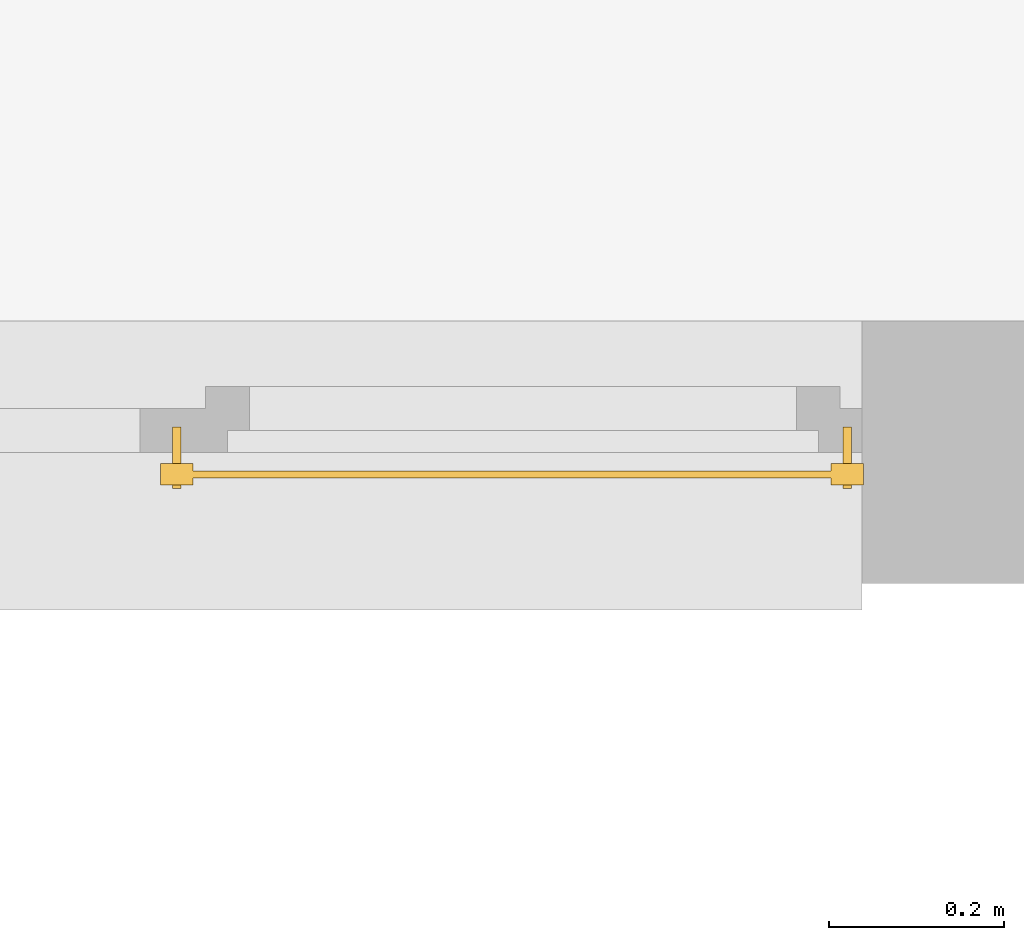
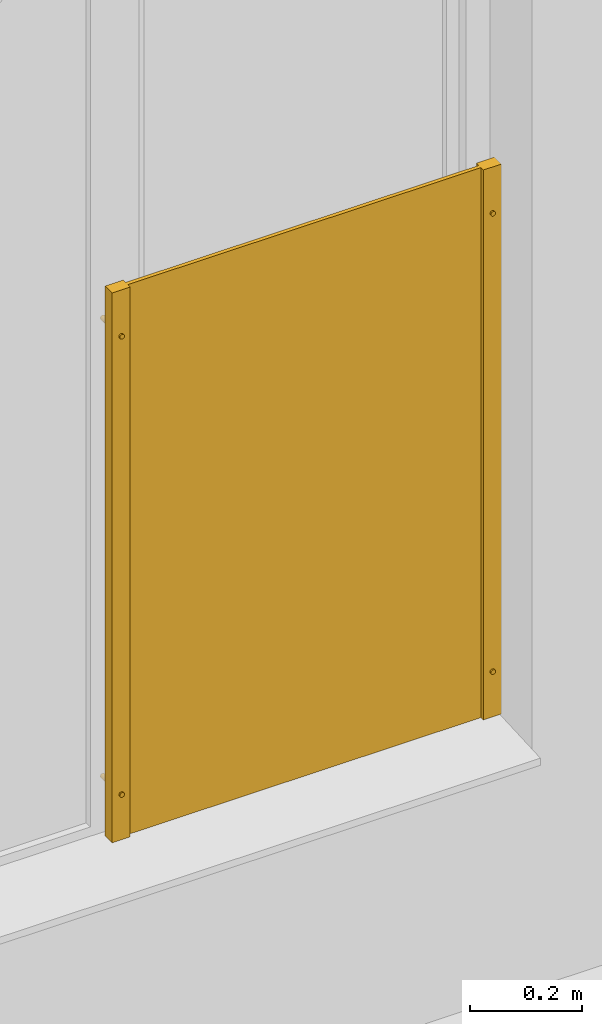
# One storey, part 7 of 8: 1 railing.
"""IFC2X3 building model written with IfcOpenShell, lengths in millimetres."""

from ifc_helpers import new_model, entity, si_unit, converted_unit, derived_unit, money_unit, direction, frame, origin_with_axes, place, context, subcontext, project, spatial, faceted_brep, material, material_list, type_object, element, save


model = new_model("IFC2X3")

# Units and contexts
model_context = context("Model", 3, precision=1e-05, world=origin_with_axes(), true_north=direction((0.0, 1.0)))
body_context = subcontext(model_context, "Body", "Model", "MODEL_VIEW")
ifc_project = project(units=[si_unit("LENGTHUNIT", "METRE", prefix="MILLI"), si_unit("AREAUNIT", "SQUARE_METRE"), si_unit("VOLUMEUNIT", "CUBIC_METRE"), converted_unit("PLANEANGLEUNIT", "DEGREE", entity("IfcPlaneAngleMeasure", 0.0174532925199), si_unit("PLANEANGLEUNIT", "RADIAN"), dimensions=[0, 0, 0, 0, 0, 0, 0]), si_unit("SOLIDANGLEUNIT", "STERADIAN"), money_unit("USD"), converted_unit("TIMEUNIT", "Year", entity("IfcTimeMeasure", 31556926.0), si_unit("TIMEUNIT", "SECOND"), dimensions=[0, 0, 1, 0, 0, 0, 0]), si_unit("MASSUNIT", "GRAM", prefix="KILO"), si_unit("THERMODYNAMICTEMPERATUREUNIT", "DEGREE_CELSIUS"), si_unit("LUMINOUSINTENSITYUNIT", "LUMEN"), si_unit("ENERGYUNIT", "JOULE", prefix="MEGA"), derived_unit("THERMALCONDUCTANCEUNIT", [(si_unit("POWERUNIT", "WATT"), 1), (si_unit("LENGTHUNIT", "METRE"), -1), (si_unit("THERMODYNAMICTEMPERATUREUNIT", "KELVIN"), -1)]), derived_unit("SPECIFICHEATCAPACITYUNIT", [(si_unit("ENERGYUNIT", "JOULE"), 1), (si_unit("MASSUNIT", "GRAM", prefix="KILO"), -1), (si_unit("THERMODYNAMICTEMPERATUREUNIT", "KELVIN"), -1)]), derived_unit("MASSDENSITYUNIT", [(si_unit("MASSUNIT", "GRAM", prefix="KILO"), 1), (si_unit("VOLUMEUNIT", "CUBIC_METRE"), -1)])], contexts=[model_context])

# Site, building, storey
site_placement = place(None, origin_with_axes())
site = spatial("IfcSite", under=ifc_project, at=site_placement, Name="Site", CompositionType="ELEMENT")
building_placement = place(site_placement, origin_with_axes())
building = spatial("IfcBuilding", under=site, at=building_placement, Name="Building", CompositionType="ELEMENT")
storey_placement = place(building_placement, origin_with_axes())
storey = spatial("IfcBuildingStorey", under=building, at=storey_placement, Name="Ground Floor", CompositionType="ELEMENT", Elevation=0.0)

# Railing
ifc_material_1 = material(Name="Steel - Structural")
ifc_material_2 = material(Name="Aluminium")
ifc_material_list = material_list([ifc_material_1, ifc_material_1, ifc_material_2, ifc_material_2, ifc_material_2, ifc_material_2, ifc_material_2])
railing_type = type_object("IfcRailingType", Name="Railing Type", PredefinedType="NOTDEFINED")
railing_placement = place(storey_placement, frame((-25961.9113682, 6703.49861059, 530.0), z_axis=(0.0, 0.0, 1.0), x_axis=(0.0, 1.0, 0.0)))
element("IfcRailing", 1, at=railing_placement, inside=storey, type_object=railing_type, material=ifc_material_list, Name="F-Line GOTLAND 1,1m", PredefinedType="NOTDEFINED", context=body_context, shape_type="Brep", body=[
    faceted_brep([(-12.5, 35.5, 0.0), (-37.5, 35.5, 0.0), (-37.5, 35.5, 1200.0), (-12.5, 35.5, 1200.0), (-12.5, -1.5, 0.0), (-37.5, -1.5, 0.0), (-37.5, -1.5, 1200.0), (-12.5, -1.5, 1200.0)], [[[0, 1, 2, 3]], [[0, 4, 5, 1]], [[1, 5, 6, 2]], [[3, 2, 6, 7]], [[4, 0, 3, 7]], [[5, 4, 7, 6]]]),
    faceted_brep([(-12.5, 801.5, 0.0), (-37.5, 801.5, 0.0), (-37.5, 801.5, 1200.0), (-12.5, 801.5, 1200.0), (-12.5, 764.5, 0.0), (-37.5, 764.5, 0.0), (-37.5, 764.5, 1200.0), (-12.5, 764.5, 1200.0)], [[[0, 1, 2, 3]], [[0, 4, 5, 1]], [[1, 5, 6, 2]], [[3, 2, 6, 7]], [[4, 0, 3, 7]], [[5, 4, 7, 6]]]),
    faceted_brep([(-29.0, 783.0, 0.0), (-29.0, 17.0, 0.0), (-29.0, 17.0, 1200.0), (-29.0, 783.0, 1200.0), (-21.0, 17.0, 0.0), (-21.0, 783.0, 0.0), (-21.0, 17.0, 1200.0), (-21.0, 783.0, 1200.0)], [[[0, 1, 2, 3]], [[4, 1, 0, 5]], [[6, 2, 1, 4]], [[3, 2, 6, 7]], [[0, 3, 7, 5]], [[6, 4, 5, 7]]]),
    faceted_brep([(-41.0, 21.9240387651, 100.868240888), (29.0, 21.9240387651, 100.868240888), (29.0, 21.9240387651, 99.1317591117), (-41.0, 21.9240387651, 99.1317591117), (-41.0, 21.6984631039, 101.710100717), (29.0, 21.6984631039, 101.710100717), (29.0, 21.3301270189, 102.5), (29.0, 20.8302222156, 103.213938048), (29.0, 20.2139380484, 103.830222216), (29.0, 19.5, 104.330127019), (29.0, 18.7101007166, 104.698463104), (29.0, 17.8682408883, 104.924038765), (29.0, 17.0, 105.0), (29.0, 16.1317591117, 104.924038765), (29.0, 15.2898992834, 104.698463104), (29.0, 14.5, 104.330127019), (29.0, 13.7860619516, 103.830222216), (29.0, 13.1697777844, 103.213938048), (29.0, 12.6698729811, 102.5), (29.0, 12.3015368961, 101.710100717), (29.0, 12.0759612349, 100.868240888), (29.0, 12.0, 100.0), (29.0, 12.0759612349, 99.1317591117), (29.0, 12.3015368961, 98.2898992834), (29.0, 12.6698729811, 97.5), (29.0, 13.1697777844, 96.7860619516), (29.0, 13.7860619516, 96.1697777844), (29.0, 14.5, 95.6698729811), (29.0, 15.2898992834, 95.3015368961), (29.0, 16.1317591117, 95.0759612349), (29.0, 17.0, 95.0), (29.0, 17.8682408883, 95.0759612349), (29.0, 18.7101007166, 95.3015368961), (29.0, 19.5, 95.6698729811), (29.0, 20.2139380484, 96.1697777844), (29.0, 20.8302222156, 96.7860619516), (29.0, 21.3301270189, 97.5), (29.0, 21.6984631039, 98.2898992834), (-41.0, 21.6984631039, 98.2898992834), (-41.0, 21.3301270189, 97.5), (-41.0, 20.8302222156, 96.7860619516), (-41.0, 20.2139380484, 96.1697777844), (-41.0, 19.5, 95.6698729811), (-41.0, 18.7101007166, 95.3015368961), (-41.0, 17.8682408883, 95.0759612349), (-41.0, 17.0, 95.0), (-41.0, 16.1317591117, 95.0759612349), (-41.0, 15.2898992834, 95.3015368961), (-41.0, 14.5, 95.6698729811), (-41.0, 13.7860619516, 96.1697777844), (-41.0, 13.1697777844, 96.7860619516), (-41.0, 12.6698729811, 97.5), (-41.0, 12.3015368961, 98.2898992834), (-41.0, 12.0759612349, 99.1317591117), (-41.0, 12.0, 100.0), (-41.0, 12.0759612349, 100.868240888), (-41.0, 12.3015368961, 101.710100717), (-41.0, 12.6698729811, 102.5), (-41.0, 13.1697777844, 103.213938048), (-41.0, 13.7860619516, 103.830222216), (-41.0, 14.5, 104.330127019), (-41.0, 15.2898992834, 104.698463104), (-41.0, 16.1317591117, 104.924038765), (-41.0, 17.0, 105.0), (-41.0, 17.8682408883, 104.924038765), (-41.0, 18.7101007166, 104.698463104), (-41.0, 19.5, 104.330127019), (-41.0, 20.2139380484, 103.830222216), (-41.0, 20.8302222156, 103.213938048), (-41.0, 21.3301270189, 102.5)], [[[0, 1, 2, 3]], [[4, 5, 1, 0]], [[1, 5, 6, 7, 8, 9, 10, 11, 12, 13, 14, 15, 16, 17, 18, 19, 20, 21, 22, 23, 24, 25, 26, 27, 28, 29, 30, 31, 32, 33, 34, 35, 36, 37, 2]], [[3, 2, 37, 38]], [[0, 3, 38, 39, 40, 41, 42, 43, 44, 45, 46, 47, 48, 49, 50, 51, 52, 53, 54, 55, 56, 57, 58, 59, 60, 61, 62, 63, 64, 65, 66, 67, 68, 69, 4]], [[69, 6, 5, 4]], [[68, 7, 6, 69]], [[67, 8, 7, 68]], [[66, 9, 8, 67]], [[65, 10, 9, 66]], [[64, 11, 10, 65]], [[63, 12, 11, 64]], [[62, 13, 12, 63]], [[61, 14, 13, 62]], [[60, 15, 14, 61]], [[59, 16, 15, 60]], [[58, 17, 16, 59]], [[57, 18, 17, 58]], [[56, 19, 18, 57]], [[55, 20, 19, 56]], [[54, 21, 20, 55]], [[53, 22, 21, 54]], [[52, 23, 22, 53]], [[51, 24, 23, 52]], [[50, 25, 24, 51]], [[49, 26, 25, 50]], [[48, 27, 26, 49]], [[47, 28, 27, 48]], [[46, 29, 28, 47]], [[45, 30, 29, 46]], [[44, 31, 30, 45]], [[43, 32, 31, 44]], [[42, 33, 32, 43]], [[41, 34, 33, 42]], [[40, 35, 34, 41]], [[39, 36, 35, 40]], [[38, 37, 36, 39]]]),
    faceted_brep([(-41.0, 21.9240387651, 1100.86824089), (29.0, 21.9240387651, 1100.86824089), (29.0, 21.9240387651, 1099.13175911), (-41.0, 21.9240387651, 1099.13175911), (-41.0, 21.6984631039, 1101.71010072), (29.0, 21.6984631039, 1101.71010072), (29.0, 21.3301270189, 1102.5), (29.0, 20.8302222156, 1103.21393805), (29.0, 20.2139380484, 1103.83022222), (29.0, 19.5, 1104.33012702), (29.0, 18.7101007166, 1104.6984631), (29.0, 17.8682408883, 1104.92403877), (29.0, 17.0, 1105.0), (29.0, 16.1317591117, 1104.92403877), (29.0, 15.2898992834, 1104.6984631), (29.0, 14.5, 1104.33012702), (29.0, 13.7860619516, 1103.83022222), (29.0, 13.1697777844, 1103.21393805), (29.0, 12.6698729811, 1102.5), (29.0, 12.3015368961, 1101.71010072), (29.0, 12.0759612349, 1100.86824089), (29.0, 12.0, 1100.0), (29.0, 12.0759612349, 1099.13175911), (29.0, 12.3015368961, 1098.28989928), (29.0, 12.6698729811, 1097.5), (29.0, 13.1697777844, 1096.78606195), (29.0, 13.7860619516, 1096.16977778), (29.0, 14.5, 1095.66987298), (29.0, 15.2898992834, 1095.3015369), (29.0, 16.1317591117, 1095.07596123), (29.0, 17.0, 1095.0), (29.0, 17.8682408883, 1095.07596123), (29.0, 18.7101007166, 1095.3015369), (29.0, 19.5, 1095.66987298), (29.0, 20.2139380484, 1096.16977778), (29.0, 20.8302222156, 1096.78606195), (29.0, 21.3301270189, 1097.5), (29.0, 21.6984631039, 1098.28989928), (-41.0, 21.6984631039, 1098.28989928), (-41.0, 21.3301270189, 1097.5), (-41.0, 20.8302222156, 1096.78606195), (-41.0, 20.2139380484, 1096.16977778), (-41.0, 19.5, 1095.66987298), (-41.0, 18.7101007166, 1095.3015369), (-41.0, 17.8682408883, 1095.07596123), (-41.0, 17.0, 1095.0), (-41.0, 16.1317591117, 1095.07596123), (-41.0, 15.2898992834, 1095.3015369), (-41.0, 14.5, 1095.66987298), (-41.0, 13.7860619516, 1096.16977778), (-41.0, 13.1697777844, 1096.78606195), (-41.0, 12.6698729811, 1097.5), (-41.0, 12.3015368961, 1098.28989928), (-41.0, 12.0759612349, 1099.13175911), (-41.0, 12.0, 1100.0), (-41.0, 12.0759612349, 1100.86824089), (-41.0, 12.3015368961, 1101.71010072), (-41.0, 12.6698729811, 1102.5), (-41.0, 13.1697777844, 1103.21393805), (-41.0, 13.7860619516, 1103.83022222), (-41.0, 14.5, 1104.33012702), (-41.0, 15.2898992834, 1104.6984631), (-41.0, 16.1317591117, 1104.92403877), (-41.0, 17.0, 1105.0), (-41.0, 17.8682408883, 1104.92403877), (-41.0, 18.7101007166, 1104.6984631), (-41.0, 19.5, 1104.33012702), (-41.0, 20.2139380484, 1103.83022222), (-41.0, 20.8302222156, 1103.21393805), (-41.0, 21.3301270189, 1102.5)], [[[0, 1, 2, 3]], [[4, 5, 1, 0]], [[1, 5, 6, 7, 8, 9, 10, 11, 12, 13, 14, 15, 16, 17, 18, 19, 20, 21, 22, 23, 24, 25, 26, 27, 28, 29, 30, 31, 32, 33, 34, 35, 36, 37, 2]], [[3, 2, 37, 38]], [[0, 3, 38, 39, 40, 41, 42, 43, 44, 45, 46, 47, 48, 49, 50, 51, 52, 53, 54, 55, 56, 57, 58, 59, 60, 61, 62, 63, 64, 65, 66, 67, 68, 69, 4]], [[69, 6, 5, 4]], [[68, 7, 6, 69]], [[67, 8, 7, 68]], [[66, 9, 8, 67]], [[65, 10, 9, 66]], [[64, 11, 10, 65]], [[63, 12, 11, 64]], [[62, 13, 12, 63]], [[61, 14, 13, 62]], [[60, 15, 14, 61]], [[59, 16, 15, 60]], [[58, 17, 16, 59]], [[57, 18, 17, 58]], [[56, 19, 18, 57]], [[55, 20, 19, 56]], [[54, 21, 20, 55]], [[53, 22, 21, 54]], [[52, 23, 22, 53]], [[51, 24, 23, 52]], [[50, 25, 24, 51]], [[49, 26, 25, 50]], [[48, 27, 26, 49]], [[47, 28, 27, 48]], [[46, 29, 28, 47]], [[45, 30, 29, 46]], [[44, 31, 30, 45]], [[43, 32, 31, 44]], [[42, 33, 32, 43]], [[41, 34, 33, 42]], [[40, 35, 34, 41]], [[39, 36, 35, 40]], [[38, 37, 36, 39]]]),
    faceted_brep([(-41.0, 787.924038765, 100.868240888), (29.0, 787.924038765, 100.868240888), (29.0, 787.924038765, 99.1317591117), (-41.0, 787.924038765, 99.1317591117), (-41.0, 787.698463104, 101.710100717), (29.0, 787.698463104, 101.710100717), (29.0, 787.330127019, 102.5), (29.0, 786.830222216, 103.213938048), (29.0, 786.213938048, 103.830222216), (29.0, 785.5, 104.330127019), (29.0, 784.710100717, 104.698463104), (29.0, 783.868240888, 104.924038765), (29.0, 783.0, 105.0), (29.0, 782.131759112, 104.924038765), (29.0, 781.289899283, 104.698463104), (29.0, 780.5, 104.330127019), (29.0, 779.786061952, 103.830222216), (29.0, 779.169777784, 103.213938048), (29.0, 778.669872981, 102.5), (29.0, 778.301536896, 101.710100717), (29.0, 778.075961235, 100.868240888), (29.0, 778.0, 100.0), (29.0, 778.075961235, 99.1317591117), (29.0, 778.301536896, 98.2898992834), (29.0, 778.669872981, 97.5), (29.0, 779.169777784, 96.7860619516), (29.0, 779.786061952, 96.1697777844), (29.0, 780.5, 95.6698729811), (29.0, 781.289899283, 95.3015368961), (29.0, 782.131759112, 95.0759612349), (29.0, 783.0, 95.0), (29.0, 783.868240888, 95.0759612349), (29.0, 784.710100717, 95.3015368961), (29.0, 785.5, 95.6698729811), (29.0, 786.213938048, 96.1697777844), (29.0, 786.830222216, 96.7860619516), (29.0, 787.330127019, 97.5), (29.0, 787.698463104, 98.2898992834), (-41.0, 787.698463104, 98.2898992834), (-41.0, 787.330127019, 97.5), (-41.0, 786.830222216, 96.7860619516), (-41.0, 786.213938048, 96.1697777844), (-41.0, 785.5, 95.6698729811), (-41.0, 784.710100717, 95.3015368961), (-41.0, 783.868240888, 95.0759612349), (-41.0, 783.0, 95.0), (-41.0, 782.131759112, 95.0759612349), (-41.0, 781.289899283, 95.3015368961), (-41.0, 780.5, 95.6698729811), (-41.0, 779.786061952, 96.1697777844), (-41.0, 779.169777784, 96.7860619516), (-41.0, 778.669872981, 97.5), (-41.0, 778.301536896, 98.2898992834), (-41.0, 778.075961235, 99.1317591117), (-41.0, 778.0, 100.0), (-41.0, 778.075961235, 100.868240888), (-41.0, 778.301536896, 101.710100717), (-41.0, 778.669872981, 102.5), (-41.0, 779.169777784, 103.213938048), (-41.0, 779.786061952, 103.830222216), (-41.0, 780.5, 104.330127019), (-41.0, 781.289899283, 104.698463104), (-41.0, 782.131759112, 104.924038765), (-41.0, 783.0, 105.0), (-41.0, 783.868240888, 104.924038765), (-41.0, 784.710100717, 104.698463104), (-41.0, 785.5, 104.330127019), (-41.0, 786.213938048, 103.830222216), (-41.0, 786.830222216, 103.213938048), (-41.0, 787.330127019, 102.5)], [[[0, 1, 2, 3]], [[4, 5, 1, 0]], [[1, 5, 6, 7, 8, 9, 10, 11, 12, 13, 14, 15, 16, 17, 18, 19, 20, 21, 22, 23, 24, 25, 26, 27, 28, 29, 30, 31, 32, 33, 34, 35, 36, 37, 2]], [[3, 2, 37, 38]], [[0, 3, 38, 39, 40, 41, 42, 43, 44, 45, 46, 47, 48, 49, 50, 51, 52, 53, 54, 55, 56, 57, 58, 59, 60, 61, 62, 63, 64, 65, 66, 67, 68, 69, 4]], [[69, 6, 5, 4]], [[68, 7, 6, 69]], [[67, 8, 7, 68]], [[66, 9, 8, 67]], [[65, 10, 9, 66]], [[64, 11, 10, 65]], [[63, 12, 11, 64]], [[62, 13, 12, 63]], [[61, 14, 13, 62]], [[60, 15, 14, 61]], [[59, 16, 15, 60]], [[58, 17, 16, 59]], [[57, 18, 17, 58]], [[56, 19, 18, 57]], [[55, 20, 19, 56]], [[54, 21, 20, 55]], [[53, 22, 21, 54]], [[52, 23, 22, 53]], [[51, 24, 23, 52]], [[50, 25, 24, 51]], [[49, 26, 25, 50]], [[48, 27, 26, 49]], [[47, 28, 27, 48]], [[46, 29, 28, 47]], [[45, 30, 29, 46]], [[44, 31, 30, 45]], [[43, 32, 31, 44]], [[42, 33, 32, 43]], [[41, 34, 33, 42]], [[40, 35, 34, 41]], [[39, 36, 35, 40]], [[38, 37, 36, 39]]]),
    faceted_brep([(-41.0, 787.924038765, 1100.86824089), (29.0, 787.924038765, 1100.86824089), (29.0, 787.924038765, 1099.13175911), (-41.0, 787.924038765, 1099.13175911), (-41.0, 787.698463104, 1101.71010072), (29.0, 787.698463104, 1101.71010072), (29.0, 787.330127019, 1102.5), (29.0, 786.830222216, 1103.21393805), (29.0, 786.213938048, 1103.83022222), (29.0, 785.5, 1104.33012702), (29.0, 784.710100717, 1104.6984631), (29.0, 783.868240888, 1104.92403877), (29.0, 783.0, 1105.0), (29.0, 782.131759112, 1104.92403877), (29.0, 781.289899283, 1104.6984631), (29.0, 780.5, 1104.33012702), (29.0, 779.786061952, 1103.83022222), (29.0, 779.169777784, 1103.21393805), (29.0, 778.669872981, 1102.5), (29.0, 778.301536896, 1101.71010072), (29.0, 778.075961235, 1100.86824089), (29.0, 778.0, 1100.0), (29.0, 778.075961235, 1099.13175911), (29.0, 778.301536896, 1098.28989928), (29.0, 778.669872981, 1097.5), (29.0, 779.169777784, 1096.78606195), (29.0, 779.786061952, 1096.16977778), (29.0, 780.5, 1095.66987298), (29.0, 781.289899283, 1095.3015369), (29.0, 782.131759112, 1095.07596123), (29.0, 783.0, 1095.0), (29.0, 783.868240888, 1095.07596123), (29.0, 784.710100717, 1095.3015369), (29.0, 785.5, 1095.66987298), (29.0, 786.213938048, 1096.16977778), (29.0, 786.830222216, 1096.78606195), (29.0, 787.330127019, 1097.5), (29.0, 787.698463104, 1098.28989928), (-41.0, 787.698463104, 1098.28989928), (-41.0, 787.330127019, 1097.5), (-41.0, 786.830222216, 1096.78606195), (-41.0, 786.213938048, 1096.16977778), (-41.0, 785.5, 1095.66987298), (-41.0, 784.710100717, 1095.3015369), (-41.0, 783.868240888, 1095.07596123), (-41.0, 783.0, 1095.0), (-41.0, 782.131759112, 1095.07596123), (-41.0, 781.289899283, 1095.3015369), (-41.0, 780.5, 1095.66987298), (-41.0, 779.786061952, 1096.16977778), (-41.0, 779.169777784, 1096.78606195), (-41.0, 778.669872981, 1097.5), (-41.0, 778.301536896, 1098.28989928), (-41.0, 778.075961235, 1099.13175911), (-41.0, 778.0, 1100.0), (-41.0, 778.075961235, 1100.86824089), (-41.0, 778.301536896, 1101.71010072), (-41.0, 778.669872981, 1102.5), (-41.0, 779.169777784, 1103.21393805), (-41.0, 779.786061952, 1103.83022222), (-41.0, 780.5, 1104.33012702), (-41.0, 781.289899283, 1104.6984631), (-41.0, 782.131759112, 1104.92403877), (-41.0, 783.0, 1105.0), (-41.0, 783.868240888, 1104.92403877), (-41.0, 784.710100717, 1104.6984631), (-41.0, 785.5, 1104.33012702), (-41.0, 786.213938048, 1103.83022222), (-41.0, 786.830222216, 1103.21393805), (-41.0, 787.330127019, 1102.5)], [[[0, 1, 2, 3]], [[4, 5, 1, 0]], [[1, 5, 6, 7, 8, 9, 10, 11, 12, 13, 14, 15, 16, 17, 18, 19, 20, 21, 22, 23, 24, 25, 26, 27, 28, 29, 30, 31, 32, 33, 34, 35, 36, 37, 2]], [[3, 2, 37, 38]], [[0, 3, 38, 39, 40, 41, 42, 43, 44, 45, 46, 47, 48, 49, 50, 51, 52, 53, 54, 55, 56, 57, 58, 59, 60, 61, 62, 63, 64, 65, 66, 67, 68, 69, 4]], [[69, 6, 5, 4]], [[68, 7, 6, 69]], [[67, 8, 7, 68]], [[66, 9, 8, 67]], [[65, 10, 9, 66]], [[64, 11, 10, 65]], [[63, 12, 11, 64]], [[62, 13, 12, 63]], [[61, 14, 13, 62]], [[60, 15, 14, 61]], [[59, 16, 15, 60]], [[58, 17, 16, 59]], [[57, 18, 17, 58]], [[56, 19, 18, 57]], [[55, 20, 19, 56]], [[54, 21, 20, 55]], [[53, 22, 21, 54]], [[52, 23, 22, 53]], [[51, 24, 23, 52]], [[50, 25, 24, 51]], [[49, 26, 25, 50]], [[48, 27, 26, 49]], [[47, 28, 27, 48]], [[46, 29, 28, 47]], [[45, 30, 29, 46]], [[44, 31, 30, 45]], [[43, 32, 31, 44]], [[42, 33, 32, 43]], [[41, 34, 33, 42]], [[40, 35, 34, 41]], [[39, 36, 35, 40]], [[38, 37, 36, 39]]]),
])

save(model, "model.ifc")
